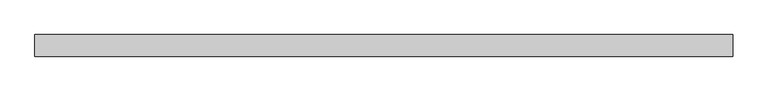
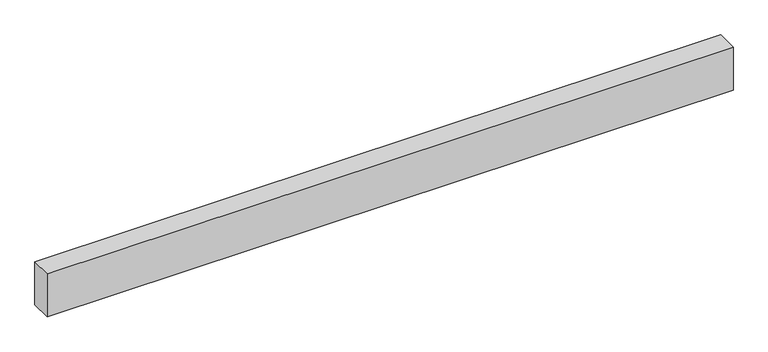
"""IFC4 building model written with IfcOpenShell, lengths in millimetres: proxy geometry."""

from ifc_helpers import new_model, si_unit, frame, origin, place, context, project, spatial, polyline, outline, extrude, source, transform, mapped, element, save


def structural_framing_d9bc9a77(model_context):
    return source(origin(), model_context, "Body", "SweptSolid", [
        extrude(outline(polyline([(-2262.85, -70.0), (-2262.85, 70.0), (2262.85, 70.0), (2262.85, -70.0), (-2262.85, -70.0)])), frame((0.0, 0.0, -300.0), z_axis=(0.0, 0.0, 1.0), x_axis=(1.0, 0.0, 0.0)), (0.0, 0.0, 1.0), 300.0),
    ])


if __name__ == "__main__":
    model = new_model("IFC4")
    model_context = context("Model", 3, world=origin())
    ifc_project = project(units=[si_unit("LENGTHUNIT", "METRE", prefix="MILLI")], contexts=[model_context])
    site = spatial("IfcSite", under=ifc_project)
    building = spatial("IfcBuilding", under=site)
    placement = place(None, origin())
    structural_framing_shape = structural_framing_d9bc9a77(model_context)
    element("IfcBuildingElementProxy", 1, Name="Structural Framing", at=placement, inside=building, context=model_context, shape_type="MappedRepresentation", body=[
        mapped(structural_framing_shape, transform((0.0, 0.0, 0.0), x_axis=(1.0, 0.0, 0.0), y_axis=(0.0, 1.0, 0.0), z_axis=(0.0, 0.0, 1.0))),
    ])
    save(model, "model.ifc")
